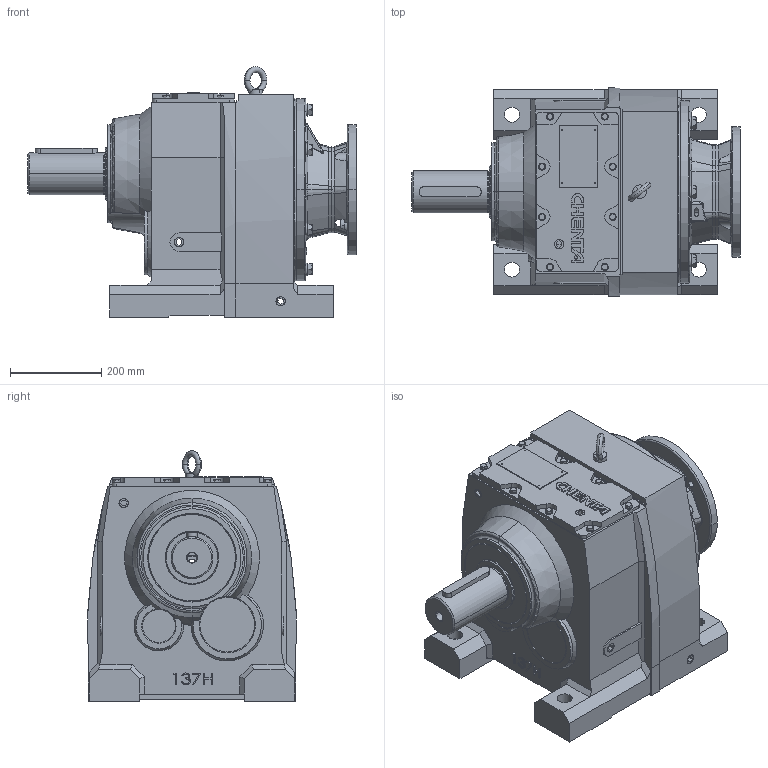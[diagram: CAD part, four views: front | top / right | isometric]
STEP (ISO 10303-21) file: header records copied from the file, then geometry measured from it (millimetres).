
FILE_DESCRIPTION (( 'STEP AP203' ), '1' );
FILE_NAME ('WINL137-284-6TC.STEP', '2013-09-26T10:17:24', ( 'User' ), ( 'Chenta' ), 'SwSTEP 2.0', 'SolidWorks 2011', '' );
FILE_SCHEMA (( 'CONFIG_CONTROL_DESIGN' ));
Length unit declared in the file: millimetre
Products named in the file (1): WINL137-284-6TC
Bounding box: 721 x 457.17 x 549.8 mm (x, y, z)
Surface area: 1744867.6 mm2 (no closed solid volume)
Topology: 0 solids, 57 shells, 944 faces, 2812 edges, 1919 vertices
Faces by surface type: plane 513, cylinder 204, cone 127, bspline 75, torus 23, sphere 2
Entity records: 37219 total; most frequent: CARTESIAN_POINT 12627, ORIENTED_EDGE 4938, DIRECTION 4811, EDGE_CURVE 2812, VERTEX_POINT 1919, VECTOR 1625, LINE 1625, AXIS2_PLACEMENT_3D 1593
